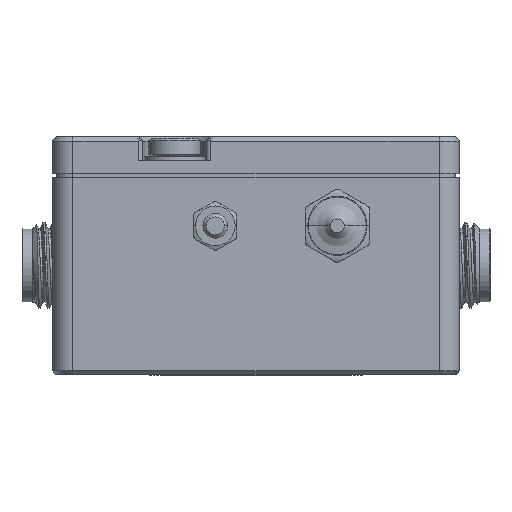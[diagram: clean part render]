
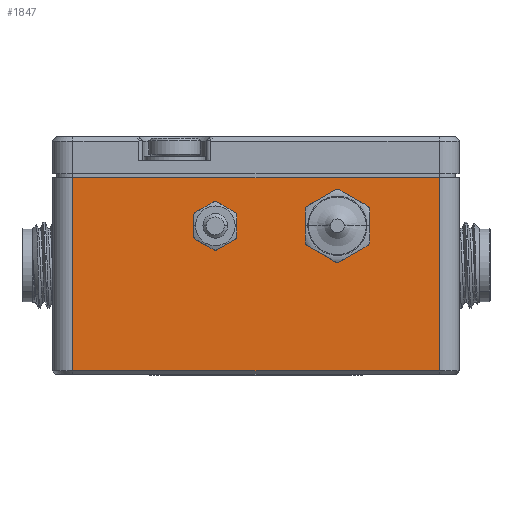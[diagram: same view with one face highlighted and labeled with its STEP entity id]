
A CAD part, front view. The second image highlights one B-rep face of the part: STEP entity #1847.
In plain terms, the highlighted planar face has unit normal (0, -1, 0).
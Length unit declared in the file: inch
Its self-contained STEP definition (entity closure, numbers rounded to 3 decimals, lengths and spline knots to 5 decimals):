
#225 = EDGE_CURVE ( 'NONE', #61552, #59218, #43501, .T. ) ;
#257 = CIRCLE ( 'NONE', #56221, 0.09 ) ;
#1354 = CARTESIAN_POINT ( 'NONE',  ( 0.23622, -0.70866, 0.27953 ) ) ;
#1847 = ADVANCED_FACE ( 'NONE', ( #61927, #47391, #7306 ), #51690, .F. ) ;
#2356 = DIRECTION ( 'NONE',  ( 0., -1., 0. ) ) ;
#2851 = CARTESIAN_POINT ( 'NONE',  ( -0.5315, -0.70866, 0.41929 ) ) ;
#3577 = DIRECTION ( 'NONE',  ( 0., 0., 1. ) ) ;
#6542 = CARTESIAN_POINT ( 'NONE',  ( 0.5315, -0.70866, 0.41929 ) ) ;
#7306 = FACE_BOUND ( 'NONE', #36923, .T. ) ;
#8036 = LINE ( 'NONE', #38507, #51021 ) ;
#10227 = VECTOR ( 'NONE', #3577, 39.37008 ) ;
#10299 = AXIS2_PLACEMENT_3D ( 'NONE', #61601, #62551, #52018 ) ;
#11280 = DIRECTION ( 'NONE',  ( 0., 0., -1. ) ) ;
#12468 = EDGE_LOOP ( 'NONE', ( #52859, #34616 ) ) ;
#12752 = LINE ( 'NONE', #53141, #37860 ) ;
#13063 = AXIS2_PLACEMENT_3D ( 'NONE', #47724, #2356, #21912 ) ;
#13611 = EDGE_CURVE ( 'NONE', #31332, #43213, #257, .T. ) ;
#15304 = CARTESIAN_POINT ( 'NONE',  ( 0.23622, -0.70866, 0.27953 ) ) ;
#16205 = ORIENTED_EDGE ( 'NONE', *, *, #18144, .T. ) ;
#16259 = EDGE_CURVE ( 'NONE', #18837, #50507, #8036, .T. ) ;
#16793 = EDGE_LOOP ( 'NONE', ( #16205, #38954, #26565, #30074 ) ) ;
#17886 = EDGE_CURVE ( 'NONE', #59218, #61552, #41620, .T. ) ;
#18144 = EDGE_CURVE ( 'NONE', #18837, #36038, #36085, .T. ) ;
#18837 = VERTEX_POINT ( 'NONE', #2851 ) ;
#21361 = CARTESIAN_POINT ( 'NONE',  ( -0.5315, -0.70866, -0.14173 ) ) ;
#21912 = DIRECTION ( 'NONE',  ( 0., 0., -1. ) ) ;
#22296 = DIRECTION ( 'NONE',  ( 1., 0., 0. ) ) ;
#25636 = DIRECTION ( 'NONE',  ( 0., 0., -1. ) ) ;
#26487 = DIRECTION ( 'NONE',  ( 0., 0., -1. ) ) ;
#26565 = ORIENTED_EDGE ( 'NONE', *, *, #40747, .T. ) ;
#28181 = AXIS2_PLACEMENT_3D ( 'NONE', #15304, #35494, #55660 ) ;
#28353 = CARTESIAN_POINT ( 'NONE',  ( 0.23622, -0.70866, 0.18953 ) ) ;
#29951 = CARTESIAN_POINT ( 'NONE',  ( 0.23622, -0.70866, 0.36953 ) ) ;
#30074 = ORIENTED_EDGE ( 'NONE', *, *, #16259, .F. ) ;
#31332 = VERTEX_POINT ( 'NONE', #28353 ) ;
#32417 = CARTESIAN_POINT ( 'NONE',  ( 0.5315, -0.70866, 0.37008 ) ) ;
#32494 = ORIENTED_EDGE ( 'NONE', *, *, #17886, .F. ) ;
#34616 = ORIENTED_EDGE ( 'NONE', *, *, #40077, .F. ) ;
#35494 = DIRECTION ( 'NONE',  ( 0., -1., 0. ) ) ;
#36038 = VERTEX_POINT ( 'NONE', #21361 ) ;
#36085 = LINE ( 'NONE', #41388, #43790 ) ;
#36923 = EDGE_LOOP ( 'NONE', ( #39874, #32494 ) ) ;
#37860 = VECTOR ( 'NONE', #42571, 39.37008 ) ;
#38507 = CARTESIAN_POINT ( 'NONE',  ( 0., -0.70866, 0.41929 ) ) ;
#38954 = ORIENTED_EDGE ( 'NONE', *, *, #43122, .T. ) ;
#39874 = ORIENTED_EDGE ( 'NONE', *, *, #225, .F. ) ;
#40077 = EDGE_CURVE ( 'NONE', #43213, #31332, #44033, .T. ) ;
#40339 = AXIS2_PLACEMENT_3D ( 'NONE', #43545, #61348, #25636 ) ;
#40747 = EDGE_CURVE ( 'NONE', #62584, #50507, #57529, .T. ) ;
#40947 = CARTESIAN_POINT ( 'NONE',  ( -0.11811, -0.70866, 0.22953 ) ) ;
#41261 = CARTESIAN_POINT ( 'NONE',  ( -0.11811, -0.70866, 0.32953 ) ) ;
#41388 = CARTESIAN_POINT ( 'NONE',  ( -0.5315, -0.70866, 0.37008 ) ) ;
#41620 = CIRCLE ( 'NONE', #13063, 0.05 ) ;
#42571 = DIRECTION ( 'NONE',  ( 1., 0., 0. ) ) ;
#43122 = EDGE_CURVE ( 'NONE', #36038, #62584, #12752, .T. ) ;
#43213 = VERTEX_POINT ( 'NONE', #29951 ) ;
#43501 = CIRCLE ( 'NONE', #40339, 0.05 ) ;
#43545 = CARTESIAN_POINT ( 'NONE',  ( -0.11811, -0.70866, 0.27953 ) ) ;
#43790 = VECTOR ( 'NONE', #26487, 39.37008 ) ;
#44033 = CIRCLE ( 'NONE', #28181, 0.09 ) ;
#44949 = CARTESIAN_POINT ( 'NONE',  ( 0.5315, -0.70866, -0.14173 ) ) ;
#47391 = FACE_OUTER_BOUND ( 'NONE', #16793, .T. ) ;
#47724 = CARTESIAN_POINT ( 'NONE',  ( -0.11811, -0.70866, 0.27953 ) ) ;
#50507 = VERTEX_POINT ( 'NONE', #6542 ) ;
#51021 = VECTOR ( 'NONE', #22296, 39.37008 ) ;
#51690 = PLANE ( 'NONE',  #10299 ) ;
#52018 = DIRECTION ( 'NONE',  ( 0., 0., 1. ) ) ;
#52859 = ORIENTED_EDGE ( 'NONE', *, *, #13611, .F. ) ;
#53141 = CARTESIAN_POINT ( 'NONE',  ( -0.59055, -0.70866, -0.14173 ) ) ;
#55660 = DIRECTION ( 'NONE',  ( 0., 0., -1. ) ) ;
#55955 = DIRECTION ( 'NONE',  ( 0., -1., 0. ) ) ;
#56221 = AXIS2_PLACEMENT_3D ( 'NONE', #1354, #55955, #11280 ) ;
#57529 = LINE ( 'NONE', #32417, #10227 ) ;
#59218 = VERTEX_POINT ( 'NONE', #41261 ) ;
#61348 = DIRECTION ( 'NONE',  ( 0., -1., 0. ) ) ;
#61552 = VERTEX_POINT ( 'NONE', #40947 ) ;
#61601 = CARTESIAN_POINT ( 'NONE',  ( -0.59055, -0.70866, 0.37008 ) ) ;
#61927 = FACE_BOUND ( 'NONE', #12468, .T. ) ;
#62551 = DIRECTION ( 'NONE',  ( 0., 1., 0. ) ) ;
#62584 = VERTEX_POINT ( 'NONE', #44949 ) ;
